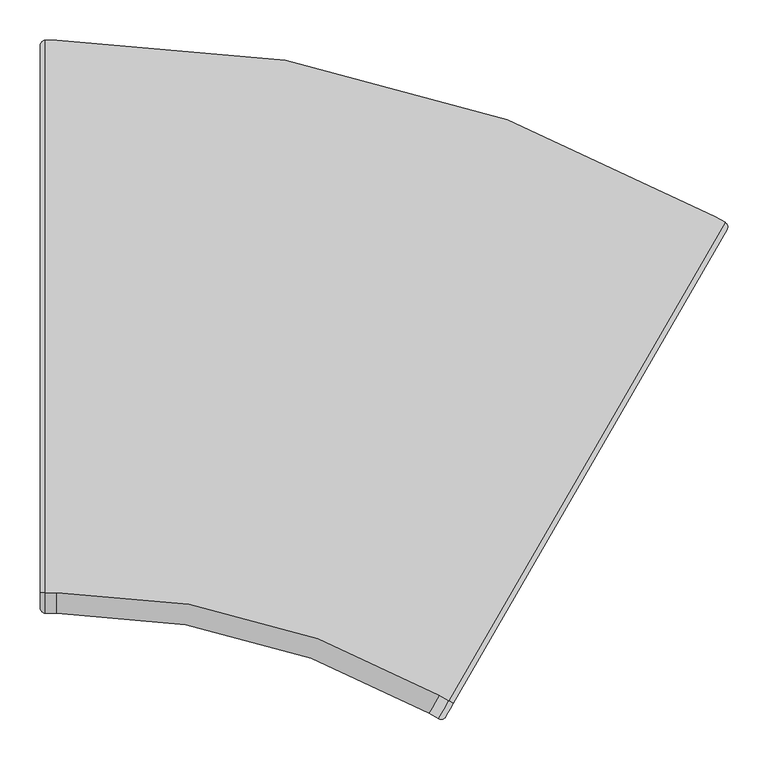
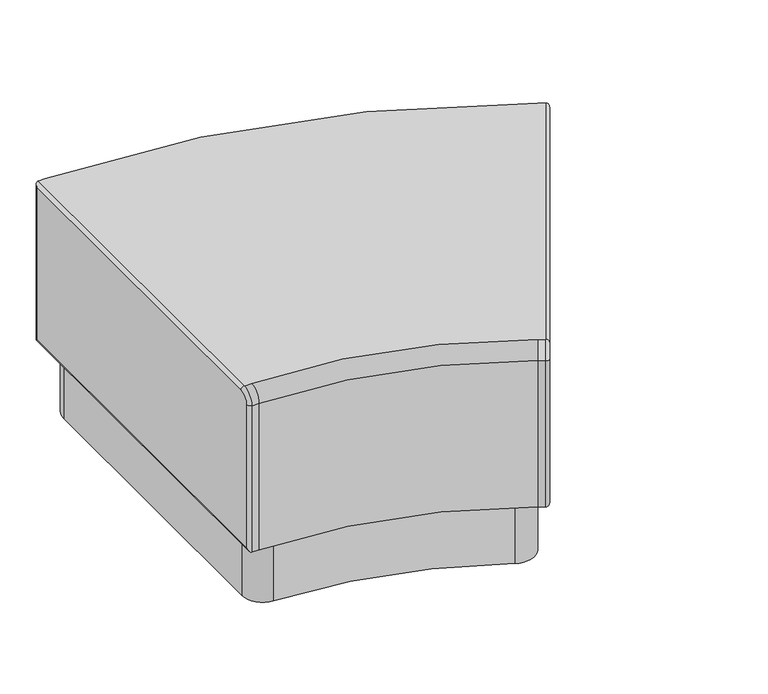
"""IFC4 building model written with IfcOpenShell, lengths in millimetres: furniture geometry, Stance_HC-Rosetta-30_Curve_Bench_Plinth_Base : RMBR30-BHP."""

from ifc_helpers import new_model, si_unit, point, frame, frame_2d, origin, origin_with_axes, place, context, project, spatial, polyline, circle_curve, ellipse_curve, trimmed, segment, composite_curve, outline, extrude, source, transform, mapped, element, save
from ifc_brep_helpers import plane_surface, cylinder_surface, revolved_surface, advanced_brep


def furniture_73c90c74(model_context):
    return source(origin(), model_context, "Body", "SolidModel", [
        extrude(outline(composite_curve([segment(trimmed(circle_curve(frame_2d((20.225, -1635.8018342)), 1615.5768342), [point((60.9119976, -20.7374158))], [point((792.5212356, -216.7715203))], False, "CARTESIAN"), True, "CONTINUOUS"), segment(trimmed(circle_curve(frame_2d((773.5493699, -251.6307511)), 39.6875), [point((792.5212356, -216.7715203))], [point((807.9197531, -271.4745011))], False, "CARTESIAN"), True, "CONTINUOUS"), segment(polyline([(807.9197531, -271.4745011), (512.0820363, -783.8804573)]), True, "CONTINUOUS"), segment(trimmed(circle_curve(frame_2d((477.7116531, -764.0367073)), 39.6875), [point((512.0820363, -783.8804573))], [point((459.2695635, -799.1790889))], False, "CARTESIAN"), True, "CONTINUOUS"), segment(trimmed(circle_curve(frame_2d((20.225, -1635.8018342)), 944.8268342), [point((459.2695635, -799.1790889))], [point((58.3126272, -691.7430017))], True, "CARTESIAN"), True, "CONTINUOUS"), segment(trimmed(circle_curve(frame_2d((59.9125, -652.0877616)), 39.6875), [point((58.3126272, -691.7430017))], [point((20.225, -652.0877616))], False, "CARTESIAN"), True, "CONTINUOUS"), segment(polyline([(20.225, -652.0877616), (20.225, -60.4123281)]), True, "CONTINUOUS"), segment(trimmed(circle_curve(frame_2d((59.9125, -60.4123281)), 39.6875), [point((20.225, -60.4123281))], [point((60.9119976, -20.7374158))], False, "CARTESIAN"), True, "CONTINUOUS")], self_intersect=False)), frame((0.0, 0.0, 6.3627), z_axis=(0.0, 0.0, 1.0), x_axis=(1.0, 0.0, 0.0)), (0.0, 0.0, 1.0), 128.51892),
        advanced_brep(
        [(838.1259171, -219.1558902, 457.2), (20.225, 0.0, 457.2), (6.35, 0.0, 457.2), (6.35, -685.7999758, 457.2), (20.225, -685.7999758, 457.2), (495.2259292, -813.0760912, 457.2), (507.2420317, -820.0135912, 457.2), (850.1420196, -226.0933902, 457.2), (838.1259171, -219.1558902, 134.88162), (20.225, 0.0, 134.88162), (850.1420196, -226.0933902, 134.88162), (494.5420317, -842.0106364, 134.88162), (482.5259292, -835.0731364, 134.88162), (20.225, -711.1999758, 134.88162), (6.35, -711.1999758, 134.88162), (6.35, 0.0, 134.88162), (482.5259292, -835.0731364, 431.8), (20.225, -711.1999758, 431.8), (503.216293, -839.6863751, 431.8), (512.741293, -823.1885912, 450.85), (494.5420317, -842.0106364, 431.8), (503.216293, -839.6863751, 141.23162), (852.4662809, -234.7676515, 141.23162), (852.4662809, -234.7676515, 450.85), (0.0, -6.35, 141.23162), (0.0, -6.35, 450.85), (0.0, -704.8499758, 141.23162), (6.35, -711.1999758, 431.8), (0.0, -704.8499758, 431.8), (0.0, -685.7999758, 450.85)],
        [
            (0, 1, circle_curve(frame((20.225, -1635.8018342, 457.2), z_axis=(0.0, 0.0, 1.0), x_axis=(0.0, 1.0, 0.0)), 1635.8018342)),
            (1, 2),
            (2, 3),
            (3, 4),
            (4, 5, circle_curve(frame((20.225, -1635.8018342, 457.2), z_axis=(0.0, 0.0, -1.0), x_axis=(0.0, 1.0, 0.0)), 950.0018585)),
            (5, 6),
            (6, 7),
            (7, 0),
            (0, 8),
            (8, 9, circle_curve(frame((20.225, -1635.8018342, 134.88162), z_axis=(0.0, 0.0, 1.0), x_axis=(0.0, 1.0, 0.0)), 1635.8018342)),
            (9, 1),
            (8, 10),
            (10, 11),
            (11, 12),
            (12, 13, circle_curve(frame((20.225, -1635.8018342, 134.88162), z_axis=(0.0, 0.0, 1.0), x_axis=(0.0, 1.0, 0.0)), 924.6018585)),
            (13, 14),
            (14, 15),
            (15, 9),
            (12, 16),
            (16, 17, circle_curve(frame((20.225, -1635.8018342, 431.8), z_axis=(0.0, 0.0, 1.0), x_axis=(0.0, 1.0, 0.0)), 924.6018585)),
            (17, 13),
            (4, 17, circle_curve(frame((20.225, -685.7999758, 431.8), z_axis=(1.0, 0.0, 0.0), x_axis=(0.0, 1.0, 0.0)), 25.4)),
            (16, 5, circle_curve(frame((495.2259292, -813.0760912, 431.8), z_axis=(-0.8660254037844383, 0.5000000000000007, 0.0), x_axis=(0.5000000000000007, 0.8660254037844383, 0.0)), 25.4)),
            (18, 19, circle_curve(frame((512.741293, -823.1885912, 431.8), z_axis=(-0.866025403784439, 0.4999999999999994, 0.0), x_axis=(0.0, 0.0, 1.0)), 19.05)),
            (19, 6, circle_curve(frame((507.2420317, -820.0135912, 450.85), z_axis=(-0.4999999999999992, -0.8660254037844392, 0.0), x_axis=(0.0, 0.0, -1.0)), 6.35)),
            (6, 20, circle_curve(frame((507.2420317, -820.0135912, 431.8), z_axis=(0.866025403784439, -0.4999999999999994, 0.0), x_axis=(0.0, 0.0, 1.0)), 25.4)),
            (20, 18, circle_curve(frame((497.7170317, -836.5113751, 431.8), z_axis=(0.0, 0.0, 1.0), x_axis=(0.4999999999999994, 0.866025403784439, 0.0)), 6.35)),
            (16, 20),
            (20, 11),
            (11, 21, ellipse_curve(frame((497.7170317, -836.5113751, 141.23162), z_axis=(-0.35355339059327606, -0.6123724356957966, 0.7071067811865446), x_axis=(0.3535533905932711, 0.6123724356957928, 0.7071067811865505)), 8.9802561, 6.35)),
            (21, 18),
            (10, 22, ellipse_curve(frame((846.9670196, -231.5926515, 141.23162), z_axis=(-0.35355339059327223, -0.6123724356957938, -0.7071067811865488), x_axis=(-0.353553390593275, -0.6123724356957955, 0.7071067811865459)), 8.9802561, 6.35)),
            (22, 21),
            (10, 7),
            (7, 23, ellipse_curve(frame((846.9670196, -231.5926515, 450.85), z_axis=(0.35355339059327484, 0.6123724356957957, -0.7071067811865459), x_axis=(-0.3535533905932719, -0.6123724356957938, -0.7071067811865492)), 8.9802561, 6.35)),
            (23, 22),
            (19, 23),
            (15, 2),
            (15, 24, ellipse_curve(frame((6.35, -6.35, 141.23162), z_axis=(0.0, 0.7071067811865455, 0.7071067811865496), x_axis=(0.0, -0.7071067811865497, 0.7071067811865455)), 8.9802561, 6.35)),
            (24, 25),
            (25, 2, ellipse_curve(frame((6.35, -6.35, 450.85), z_axis=(0.0, 0.7071067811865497, -0.7071067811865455), x_axis=(0.0, 0.7071067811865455, 0.7071067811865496)), 8.9802561, 6.35)),
            (14, 26, ellipse_curve(frame((6.35, -704.8499758, 141.23162), z_axis=(0.0, 0.7071067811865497, -0.7071067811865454), x_axis=(0.0, 0.7071067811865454, 0.7071067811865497)), 8.9802561, 6.35)),
            (26, 24),
            (17, 27),
            (27, 14),
            (27, 28, circle_curve(frame((6.35, -704.8499758, 431.8), z_axis=(0.0, 0.0, -1.0), x_axis=(0.0, -1.0, 0.0)), 6.35)),
            (28, 26),
            (3, 27, circle_curve(frame((6.35, -685.7999758, 431.8), z_axis=(1.0, 0.0, 0.0), x_axis=(0.0, -1.0, 0.0)), 25.4)),
            (3, 29, circle_curve(frame((6.35, -685.7999758, 450.85), z_axis=(0.0, -1.0, 0.0), x_axis=(0.0, 0.0, 1.0)), 6.35)),
            (29, 28, circle_curve(frame((0.0, -685.7999758, 431.8), z_axis=(1.0, 0.0, 0.0), x_axis=(0.0, -1.0, 0.0)), 19.05)),
            (25, 29),
        ],
        [
            plane_surface(frame((20.225, -1635.8018342, 457.2), z_axis=(0.0, 0.0, 1.0), x_axis=(0.0, 1.0, 0.0))),
            cylinder_surface(frame((20.225, -1635.8018342, 618.9648354), z_axis=(0.0, 0.0, -1.0), x_axis=(0.0, 1.0, 0.0)), 1635.8018342),
            plane_surface(frame((20.225, -1635.8018342, 134.88162), z_axis=(0.0, 0.0, -1.0), x_axis=(0.0, 1.0, 0.0))),
            revolved_surface(polyline([(20.225, -711.1999757, 134.88162), (20.225, -711.1999757, 431.8)]), (20.225, -1635.8018342, 618.9648354), (0.0, 0.0, -1.0)),
            revolved_surface(trimmed(ellipse_curve(frame((20.225, -685.7999758, 431.8), z_axis=(-1.0, 0.0, 0.0), x_axis=(0.0, 1.0, 0.0)), 25.4, 25.4), [point((20.225, -711.1999758, 431.8))], [point((20.225, -685.7999758, 457.2))], True, "CARTESIAN"), (20.225, -1635.8018342, 618.9648354), (0.0, 0.0, -1.0)),
            revolved_surface(trimmed(ellipse_curve(frame((507.2420317, -820.0135912, 450.85), z_axis=(0.4999999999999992, 0.8660254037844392, 0.0), x_axis=(0.0, 0.0, -1.0)), 6.35, 6.35), [point((507.2420317, -820.0135912, 457.2))], [point((512.741293, -823.1885912, 450.85))], True, "CARTESIAN"), (495.2259292, -813.0760912, 431.8), (0.866025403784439, -0.4999999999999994, 0.0)),
            cylinder_surface(frame((495.2259292, -813.0760912, 431.8), z_axis=(0.866025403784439, -0.4999999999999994, 0.0), x_axis=(0.0, 0.0, 1.0)), 25.4),
            cylinder_surface(frame((497.7170317, -836.5113751, 431.8), z_axis=(0.0, 0.0, 1.0000000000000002), x_axis=(0.4999999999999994, 0.866025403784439, 0.0)), 6.35),
            plane_surface(frame((482.5259292, -835.0731364, 431.8), z_axis=(-0.49999999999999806, -0.8660254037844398, 0.0), x_axis=(0.0, 0.0, -1.0))),
            cylinder_surface(frame((494.5420317, -842.0106364, 141.23162), z_axis=(-0.4999999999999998, -0.8660254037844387, 0.0), x_axis=(0.0, 0.0, 1.0)), 6.35),
            cylinder_surface(frame((846.9670196, -231.5926515, 134.88162), z_axis=(0.0, 0.0, -1.0), x_axis=(-0.4999999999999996, -0.8660254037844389, 0.0)), 6.35),
            plane_surface(frame((838.1259171, -219.1558902, 134.88162), z_axis=(0.500000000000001, 0.8660254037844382, 0.0), x_axis=(0.0, 0.0, 1.0))),
            cylinder_surface(frame((850.1420196, -226.0933902, 450.85), z_axis=(0.49999999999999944, 0.8660254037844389, 0.0), x_axis=(0.0, 0.0, -1.0)), 6.35),
            plane_surface(frame((852.4662809, -234.7676515, 450.85), z_axis=(0.8660254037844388, -0.4999999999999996, 0.0), x_axis=(-0.4999999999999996, -0.8660254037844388, 0.0))),
            plane_surface(frame((20.225, 0.0, 457.2), z_axis=(0.0, 1.0, 0.0), x_axis=(0.0, 0.0, -1.0))),
            cylinder_surface(frame((6.35, -6.35, 457.2), z_axis=(0.0, 0.0, 1.0), x_axis=(0.0, 1.0, 0.0)), 6.35),
            cylinder_surface(frame((6.35, 0.0, 141.23162), z_axis=(0.0, 1.0, 0.0), x_axis=(0.0, 0.0, -1.0)), 6.35),
            plane_surface(frame((20.225, -711.1999758, 134.88162), z_axis=(0.0, -1.0, 0.0), x_axis=(0.0, 0.0, 1.0))),
            cylinder_surface(frame((6.35, -704.8499758, 134.88162), z_axis=(0.0, 0.0, -1.0), x_axis=(0.0, -1.0, 0.0)), 6.35),
            cylinder_surface(frame((0.0, -685.7999758, 431.8), z_axis=(-1.0, 0.0, 0.0), x_axis=(0.0, -1.0, 0.0)), 25.4),
            revolved_surface(trimmed(ellipse_curve(frame((6.35, -704.8499758, 431.8), z_axis=(0.0, 0.0, -1.0), x_axis=(0.0, -1.0, 0.0)), 6.35, 6.35), [point((6.35, -711.1999758, 431.8))], [point((0.0, -704.8499758, 431.8))], True, "CARTESIAN"), (0.0, -685.7999758, 431.8), (-1.0, 0.0, 0.0)),
            cylinder_surface(frame((6.35, -685.7999758, 450.85), z_axis=(0.0, -1.0, 0.0), x_axis=(0.0, 0.0, 1.0)), 6.35),
            plane_surface(frame((0.0, -685.7999758, 450.85), z_axis=(-1.0, 0.0, 0.0), x_axis=(0.0, 1.0, 0.0))),
        ],
        [
            (0, [[1, 2, 3, 4, 5, 6, 7, 8]]),
            (1, [[-1, 9, 10, 11]]),
            (2, [[-10, 12, 13, 14, 15, 16, 17, 18]]),
            (3, [[-15, 19, 20, 21]]),
            (4, [[-5, 22, -20, 23]]),
            (5, [[24, 25, 26, 27]]),
            (6, [[-26, -6, -23, 28]]),
            (7, [[-27, 29, 30, 31]]),
            (8, [[-28, -19, -14, -29]]),
            (9, [[-30, -13, 32, 33]]),
            (10, [[-32, 34, 35, 36]]),
            (11, [[-12, -9, -8, -34]]),
            (12, [[-25, 37, -35, -7]]),
            (13, [[-24, -31, -33, -36, -37]]),
            (14, [[-2, -11, -18, 38]]),
            (15, [[-38, 39, 40, 41]]),
            (16, [[-39, -17, 42, 43]]),
            (17, [[-16, -21, 44, 45]]),
            (18, [[-42, -45, 46, 47]]),
            (19, [[-44, -22, -4, 48]]),
            (20, [[-46, -48, 49, 50]]),
            (21, [[-41, 51, -49, -3]]),
            (22, [[-40, -43, -47, -50, -51]]),
        ],
    ),
        extrude(outline(composite_curve([segment(trimmed(circle_curve(frame_2d((52.9205532, -54.0033118)), 11.90625), [point((52.9205532, -65.9095618))], [point((52.9205532, -42.0970618))], False, "CARTESIAN"), True, "CONTINUOUS"), segment(trimmed(circle_curve(frame_2d((52.9205532, -54.0033118)), 11.90625), [point((52.9205532, -42.0970618))], [point((52.9205532, -65.9095618))], False, "CARTESIAN"), True, "CONTINUOUS")], self_intersect=False)), origin_with_axes(), (0.0, 0.0, 1.0), 6.3627),
        extrude(outline(composite_curve([segment(trimmed(circle_curve(frame_2d((52.9205532, -657.1966882)), 11.90625), [point((52.9205532, -669.1029382))], [point((52.9205532, -645.2904382))], False, "CARTESIAN"), True, "CONTINUOUS"), segment(trimmed(circle_curve(frame_2d((52.9205532, -657.1966882)), 11.90625), [point((52.9205532, -645.2904382))], [point((52.9205532, -669.1029382))], False, "CARTESIAN"), True, "CONTINUOUS")], self_intersect=False)), origin_with_axes(), (0.0, 0.0, 1.0), 6.3627),
        extrude(outline(composite_curve([segment(trimmed(circle_curve(frame_2d((782.8090816, -249.5763536)), 11.90625), [point((782.8090816, -261.4826036))], [point((782.8090816, -237.6701036))], False, "CARTESIAN"), True, "CONTINUOUS"), segment(trimmed(circle_curve(frame_2d((782.8090816, -249.5763536)), 11.90625), [point((782.8090816, -237.6701036))], [point((782.8090816, -261.4826036))], False, "CARTESIAN"), True, "CONTINUOUS")], self_intersect=False)), origin_with_axes(), (0.0, 0.0, 1.0), 6.3627),
        extrude(outline(composite_curve([segment(trimmed(circle_curve(frame_2d((481.2123934, -771.9571409)), 11.90625), [point((481.2123934, -783.8633909))], [point((481.2123934, -760.0508909))], False, "CARTESIAN"), True, "CONTINUOUS"), segment(trimmed(circle_curve(frame_2d((481.2123934, -771.9571409)), 11.90625), [point((481.2123934, -760.0508909))], [point((481.2123934, -783.8633909))], False, "CARTESIAN"), True, "CONTINUOUS")], self_intersect=False)), origin_with_axes(), (0.0, 0.0, 1.0), 6.3627),
    ])


if __name__ == "__main__":
    model = new_model("IFC4")
    model_context = context("Model", 3, world=origin())
    ifc_project = project(units=[si_unit("LENGTHUNIT", "METRE", prefix="MILLI")], contexts=[model_context])
    site = spatial("IfcSite", under=ifc_project)
    building = spatial("IfcBuilding", under=site)
    placement = place(None, origin())
    furniture_shape = furniture_73c90c74(model_context)
    element("IfcFurniture", 1, ObjectType="Stance_HC-Rosetta-30_Curve_Bench_Plinth_Base : RMBR30-BHP", at=placement, inside=building, context=model_context, shape_type="MappedRepresentation", body=[
        mapped(furniture_shape, transform((0.0, 0.0, 0.0), x_axis=(1.0, 0.0, 0.0), y_axis=(0.0, 1.0, 0.0), z_axis=(0.0, 0.0, 1.0))),
    ])
    save(model, "model.ifc")
